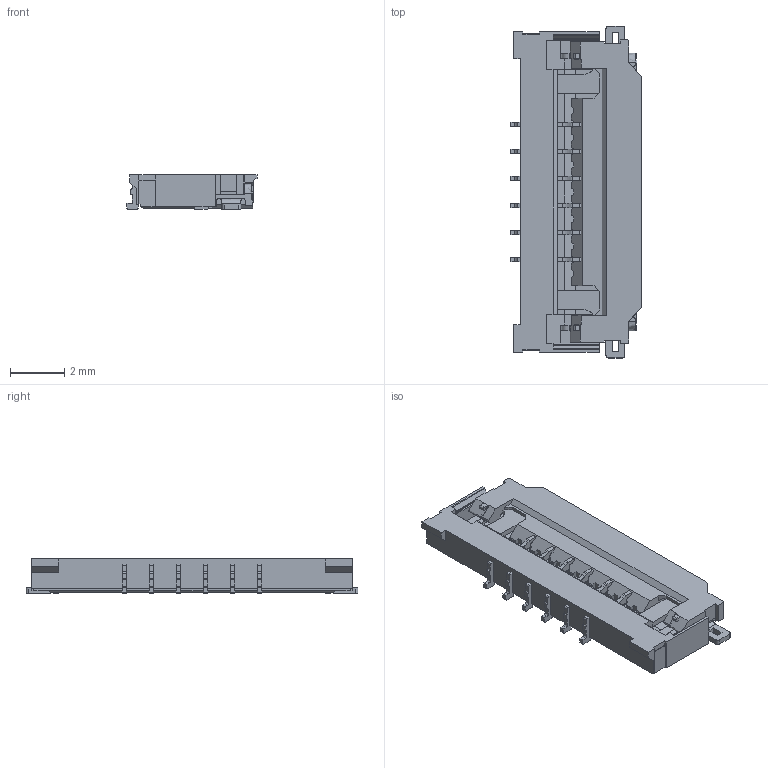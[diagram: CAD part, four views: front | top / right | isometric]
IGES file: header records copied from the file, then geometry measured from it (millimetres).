
Start section: SolidWorks IGES file using analytic representation for surfaces
Global section: file name: C:\Users\151066016\Desktop\04_6811_606_090_846_+_Sdraw_161102.IGS; native system: SolidWorks 2014; preprocessor: SolidWorks 2014; author: 151066016; date: 170725.105557; units: millimetre
Bounding box: 4.79 x 12.23 x 1.28 mm (x, y, z)
Surface area: 229.3 mm2 (no closed solid volume)
Topology: 0 solids, 0 shells, 655 faces, 4412 edges, 4410 vertices
Faces by surface type: bspline 464, revolution 191
